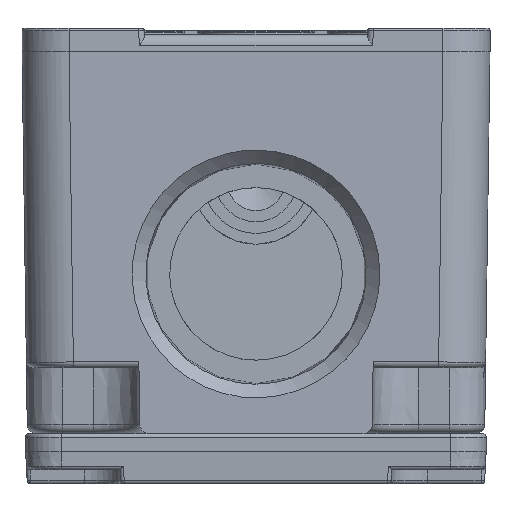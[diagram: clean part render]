
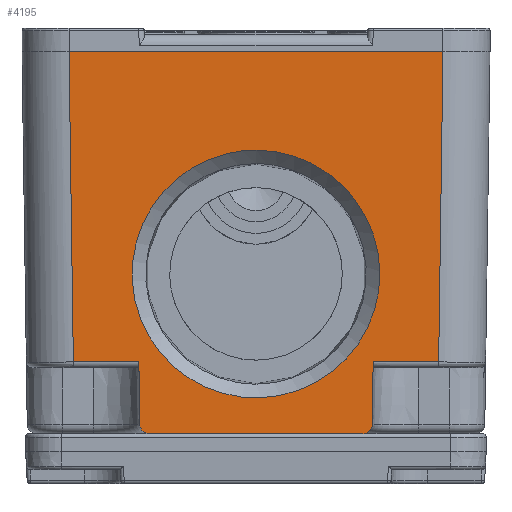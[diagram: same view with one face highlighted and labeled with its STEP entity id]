
A CAD part, left-side view. The second image highlights one B-rep face of the part: STEP entity #4195.
In plain terms, the highlighted planar face has unit normal (-1, 0, -0.011).
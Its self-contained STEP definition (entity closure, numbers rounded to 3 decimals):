
#960 = VERTEX_POINT('',#961);
#961 = CARTESIAN_POINT('',(-33.671,-8.873,0.));
#967 = EDGE_CURVE('',#960,#968,#970,.T.);
#968 = VERTEX_POINT('',#969);
#969 = CARTESIAN_POINT('',(-33.671,9.314,0.));
#970 = LINE('',#971,#972);
#971 = CARTESIAN_POINT('',(-33.671,0.22,0.));
#972 = VECTOR('',#973,1.);
#973 = DIRECTION('',(0.,1.,0.));
#1126 = EDGE_CURVE('',#1127,#1129,#1131,.T.);
#1127 = VERTEX_POINT('',#1128);
#1128 = CARTESIAN_POINT('',(-33.735,-15.324,
    6.095));
#1129 = VERTEX_POINT('',#1130);
#1130 = CARTESIAN_POINT('',(-34.011,-15.693,32.5));
#1131 = LINE('',#1132,#1133);
#1132 = CARTESIAN_POINT('',(-34.009,-15.69,
    32.278));
#1133 = VECTOR('',#1134,1.);
#1134 = DIRECTION('',(-0.01,-0.014,
    1.));
#2775 = VERTEX_POINT('',#2776);
#2776 = CARTESIAN_POINT('',(-34.011,16.134,32.5));
#2782 = EDGE_CURVE('',#2775,#1129,#2783,.T.);
#2783 = LINE('',#2784,#2785);
#2784 = CARTESIAN_POINT('',(-34.011,0.22,32.5));
#2785 = VECTOR('',#2786,1.);
#2786 = DIRECTION('',(0.,-1.,0.));
#4195 = ADVANCED_FACE('',(#4196,#4221),#4280,.F.);
#4196 = FACE_BOUND('',#4197,.T.);
#4197 = EDGE_LOOP('',(#4198));
#4198 = ORIENTED_EDGE('',*,*,#4199,.T.);
#4199 = EDGE_CURVE('',#4200,#4200,#4202,.T.);
#4200 = VERTEX_POINT('',#4201);
#4201 = CARTESIAN_POINT('',(-33.924,0.22,
    24.124));
#4202 = B_SPLINE_CURVE_WITH_KNOTS('',3,(#4203,#4204,#4205,#4206,#4207,
    #4208,#4209,#4210,#4211,#4212,#4213,#4214,#4215,#4216,#4217,#4218,
    #4219,#4220),.UNSPECIFIED.,.T.,.F.,(2,2,2,2,2,2,2,2,2,2,2),(-0.125,
    0.,0.125,0.25,0.375,0.5,0.625,0.75,0.875,1.,1.125),.UNSPECIFIED.);
#4203 = CARTESIAN_POINT('',(-33.924,2.984,
    24.124));
#4204 = CARTESIAN_POINT('',(-33.924,-2.543,
    24.124));
#4205 = CARTESIAN_POINT('',(-33.912,-5.28,
    22.991));
#4206 = CARTESIAN_POINT('',(-33.871,-9.189,
    19.082));
#4207 = CARTESIAN_POINT('',(-33.842,-10.322,
    16.346));
#4208 = CARTESIAN_POINT('',(-33.784,-10.322,
    10.818));
#4209 = CARTESIAN_POINT('',(-33.756,-9.189,
    8.081));
#4210 = CARTESIAN_POINT('',(-33.715,-5.28,
    4.173));
#4211 = CARTESIAN_POINT('',(-33.703,-2.543,
    3.039));
#4212 = CARTESIAN_POINT('',(-33.703,2.984,
    3.039));
#4213 = CARTESIAN_POINT('',(-33.715,5.721,4.173
    ));
#4214 = CARTESIAN_POINT('',(-33.756,9.63,
    8.081));
#4215 = CARTESIAN_POINT('',(-33.784,10.763,
    10.818));
#4216 = CARTESIAN_POINT('',(-33.842,10.763,
    16.346));
#4217 = CARTESIAN_POINT('',(-33.871,9.63,
    19.082));
#4218 = CARTESIAN_POINT('',(-33.912,5.721,22.991
    ));
#4219 = CARTESIAN_POINT('',(-33.924,2.984,
    24.124));
#4220 = CARTESIAN_POINT('',(-33.924,-2.543,
    24.124));
#4221 = FACE_BOUND('',#4222,.T.);
#4222 = EDGE_LOOP('',(#4223,#4224,#4233,#4241,#4247,#4248,#4249,#4257,
    #4265,#4273));
#4223 = ORIENTED_EDGE('',*,*,#967,.F.);
#4224 = ORIENTED_EDGE('',*,*,#4225,.T.);
#4225 = EDGE_CURVE('',#960,#4226,#4228,.T.);
#4226 = VERTEX_POINT('',#4227);
#4227 = CARTESIAN_POINT('',(-33.679,-9.673,0.789
    ));
#4228 = ELLIPSE('',#4229,0.8,0.8);
#4229 = AXIS2_PLACEMENT_3D('',#4230,#4231,#4232);
#4230 = CARTESIAN_POINT('',(-33.679,-8.873,0.8));
#4231 = DIRECTION('',(-1.,0.,
    -0.01));
#4232 = DIRECTION('',(0.01,0.,
    -1.));
#4233 = ORIENTED_EDGE('',*,*,#4234,.T.);
#4234 = EDGE_CURVE('',#4226,#4235,#4237,.T.);
#4235 = VERTEX_POINT('',#4236);
#4236 = CARTESIAN_POINT('',(-33.735,-9.748,
    6.095));
#4237 = LINE('',#4238,#4239);
#4238 = CARTESIAN_POINT('',(-34.01,-10.119,
    32.354));
#4239 = VECTOR('',#4240,1.);
#4240 = DIRECTION('',(-0.01,-0.014,
    1.));
#4241 = ORIENTED_EDGE('',*,*,#4242,.T.);
#4242 = EDGE_CURVE('',#4235,#1127,#4243,.T.);
#4243 = LINE('',#4244,#4245);
#4244 = CARTESIAN_POINT('',(-33.735,-15.317,
    6.095));
#4245 = VECTOR('',#4246,1.);
#4246 = DIRECTION('',(0.,-1.,0.));
#4247 = ORIENTED_EDGE('',*,*,#1126,.T.);
#4248 = ORIENTED_EDGE('',*,*,#2782,.F.);
#4249 = ORIENTED_EDGE('',*,*,#4250,.F.);
#4250 = EDGE_CURVE('',#4251,#2775,#4253,.T.);
#4251 = VERTEX_POINT('',#4252);
#4252 = CARTESIAN_POINT('',(-33.735,15.765,
    6.095));
#4253 = LINE('',#4254,#4255);
#4254 = CARTESIAN_POINT('',(-34.008,16.13,
    32.198));
#4255 = VECTOR('',#4256,1.);
#4256 = DIRECTION('',(-0.01,0.014,
    1.));
#4257 = ORIENTED_EDGE('',*,*,#4258,.T.);
#4258 = EDGE_CURVE('',#4251,#4259,#4261,.T.);
#4259 = VERTEX_POINT('',#4260);
#4260 = CARTESIAN_POINT('',(-33.735,10.189,
    6.095));
#4261 = LINE('',#4262,#4263);
#4262 = CARTESIAN_POINT('',(-33.735,0.22,6.095
    ));
#4263 = VECTOR('',#4264,1.);
#4264 = DIRECTION('',(0.,-1.,0.));
#4265 = ORIENTED_EDGE('',*,*,#4266,.T.);
#4266 = EDGE_CURVE('',#4259,#4267,#4269,.T.);
#4267 = VERTEX_POINT('',#4268);
#4268 = CARTESIAN_POINT('',(-33.679,10.114,0.789
    ));
#4269 = LINE('',#4270,#4271);
#4270 = CARTESIAN_POINT('',(-34.01,10.56,
    32.354));
#4271 = VECTOR('',#4272,1.);
#4272 = DIRECTION('',(0.01,-0.014,
    -1.));
#4273 = ORIENTED_EDGE('',*,*,#4274,.T.);
#4274 = EDGE_CURVE('',#4267,#968,#4275,.T.);
#4275 = ELLIPSE('',#4276,0.8,0.8);
#4276 = AXIS2_PLACEMENT_3D('',#4277,#4278,#4279);
#4277 = CARTESIAN_POINT('',(-33.679,9.314,0.8));
#4278 = DIRECTION('',(-1.,0.,-0.01));
#4279 = DIRECTION('',(-0.01,0.,1.));
#4280 = PLANE('',#4281);
#4281 = AXIS2_PLACEMENT_3D('',#4282,#4283,#4284);
#4282 = CARTESIAN_POINT('',(-34.011,0.22,32.5));
#4283 = DIRECTION('',(1.,0.,0.01));
#4284 = DIRECTION('',(0.01,0.,-1.));
